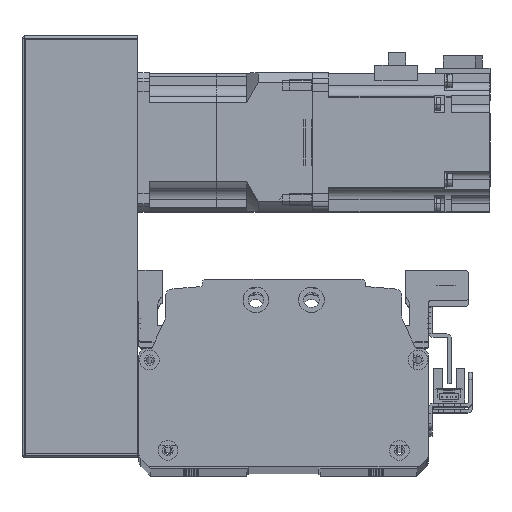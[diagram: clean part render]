
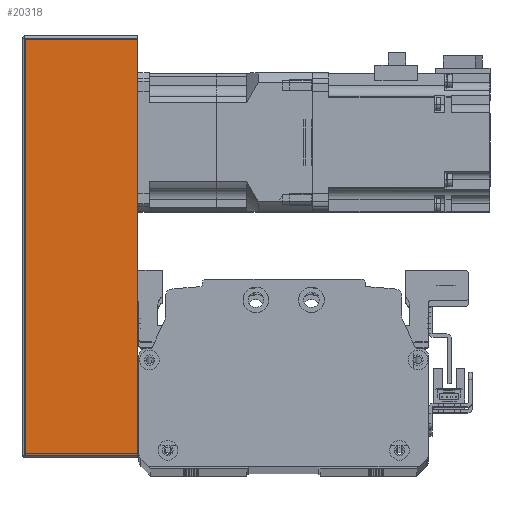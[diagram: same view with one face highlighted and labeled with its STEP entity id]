
A CAD part, top view. The second image highlights one B-rep face of the part: STEP entity #20318.
In plain terms, the highlighted planar face has unit normal (0, 0, 1) as drawn and (0, -1, 0) by its records, which use the part's own axes.
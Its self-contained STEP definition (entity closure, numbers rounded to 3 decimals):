
#604=PLANE('',#22362);
#1823=LINE('',#33600,#3447);
#1832=LINE('',#33639,#3456);
#1835=LINE('',#33649,#3459);
#1836=LINE('',#33651,#3460);
#3447=VECTOR('',#27198,10.);
#3456=VECTOR('',#27247,10.);
#3459=VECTOR('',#27264,10.);
#3460=VECTOR('',#27267,10.);
#5926=FACE_OUTER_BOUND('',#7458,.T.);
#7458=EDGE_LOOP('',(#17491,#17492,#17493,#17494));
#10417=VERTEX_POINT('',#33597);
#10418=VERTEX_POINT('',#33599);
#10427=VERTEX_POINT('',#33636);
#10428=VERTEX_POINT('',#33638);
#12905=EDGE_CURVE('',#10417,#10418,#1823,.T.);
#12925=EDGE_CURVE('',#10427,#10428,#1832,.T.);
#12931=EDGE_CURVE('',#10428,#10417,#1835,.T.);
#12932=EDGE_CURVE('',#10418,#10427,#1836,.T.);
#17491=ORIENTED_EDGE('',*,*,#12925,.F.);
#17492=ORIENTED_EDGE('',*,*,#12932,.F.);
#17493=ORIENTED_EDGE('',*,*,#12905,.F.);
#17494=ORIENTED_EDGE('',*,*,#12931,.F.);
#20318=ADVANCED_FACE('',(#5926),#604,.T.);
#22362=AXIS2_PLACEMENT_3D('',#33650,#27265,#27266);
#27198=DIRECTION('',(1.,0.,0.));
#27247=DIRECTION('',(-1.,0.,0.));
#27264=DIRECTION('',(0.,0.,1.));
#27265=DIRECTION('center_axis',(0.,-1.,0.));
#27266=DIRECTION('ref_axis',(1.,0.,0.));
#27267=DIRECTION('',(0.,0.,-1.));
#33597=CARTESIAN_POINT('',(-90.,-38.,25.));
#33599=CARTESIAN_POINT('',(90.,-38.,25.));
#33600=CARTESIAN_POINT('',(91.,-38.,25.));
#33636=CARTESIAN_POINT('',(90.,-38.,-24.));
#33638=CARTESIAN_POINT('',(-90.,-38.,-24.));
#33639=CARTESIAN_POINT('',(-45.5,-38.,-24.));
#33649=CARTESIAN_POINT('',(-90.,-38.,0.));
#33650=CARTESIAN_POINT('Origin',(-91.,-38.,0.));
#33651=CARTESIAN_POINT('',(90.,-38.,0.));
